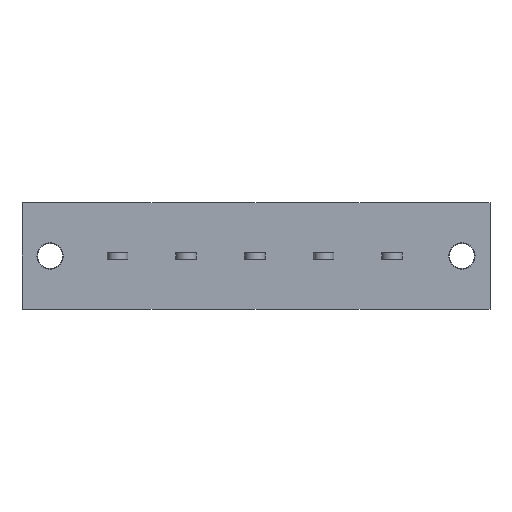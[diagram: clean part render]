
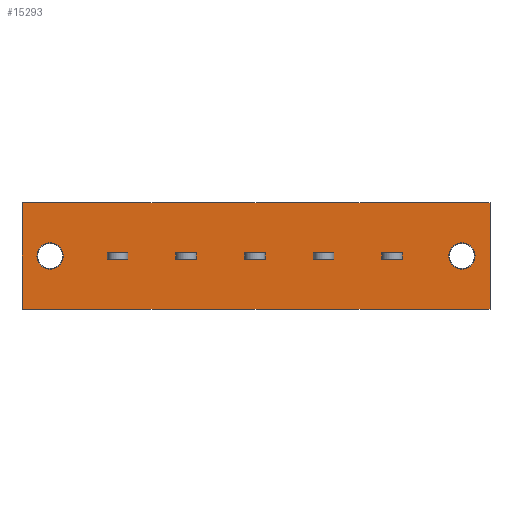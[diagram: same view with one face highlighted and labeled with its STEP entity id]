
A CAD part, front view. The second image highlights one B-rep face of the part: STEP entity #15293.
In plain terms, the highlighted planar face has unit normal (0, -1, 0).
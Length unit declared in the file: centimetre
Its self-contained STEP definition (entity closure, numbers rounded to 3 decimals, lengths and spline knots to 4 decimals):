
#954=VECTOR('',#16495,1.);
#1445=VECTOR('',#17294,1.);
#1614=VECTOR('',#17737,1.);
#1618=VECTOR('',#17742,1.);
#1633=VECTOR('',#17779,1.);
#1641=VECTOR('',#17791,1.);
#1759=VECTOR('',#18105,1.);
#1763=VECTOR('',#18110,1.);
#1778=VECTOR('',#18147,1.);
#1786=VECTOR('',#18159,1.);
#1904=VECTOR('',#18473,1.);
#1908=VECTOR('',#18478,1.);
#1923=VECTOR('',#18515,1.);
#1931=VECTOR('',#18527,1.);
#2049=VECTOR('',#18841,1.);
#2053=VECTOR('',#18846,1.);
#2068=VECTOR('',#18883,1.);
#2076=VECTOR('',#18895,1.);
#2143=VECTOR('',#19020,1.);
#2144=VECTOR('',#19021,1.);
#2145=VECTOR('',#19022,1.);
#2146=VECTOR('',#19023,1.);
#2147=VECTOR('',#19024,1.);
#2148=VECTOR('',#19025,1.);
#2616=LINE('',#20684,#954);
#3107=LINE('',#22523,#1445);
#3276=LINE('',#23078,#1614);
#3280=LINE('',#23087,#1618);
#3295=LINE('',#23131,#1633);
#3303=LINE('',#23147,#1641);
#3421=LINE('',#23548,#1759);
#3425=LINE('',#23557,#1763);
#3440=LINE('',#23601,#1778);
#3448=LINE('',#23617,#1786);
#3566=LINE('',#24018,#1904);
#3570=LINE('',#24027,#1908);
#3585=LINE('',#24071,#1923);
#3593=LINE('',#24087,#1931);
#3711=LINE('',#24488,#2049);
#3715=LINE('',#24497,#2053);
#3730=LINE('',#24541,#2068);
#3738=LINE('',#24557,#2076);
#3805=LINE('',#24719,#2143);
#3806=LINE('',#24722,#2144);
#3807=LINE('',#24724,#2145);
#3808=LINE('',#24726,#2146);
#3809=LINE('',#24727,#2147);
#3810=LINE('',#24728,#2148);
#4314=VERTEX_POINT('',#20685);
#4315=VERTEX_POINT('',#20686);
#4326=VERTEX_POINT('',#20710);
#4761=VERTEX_POINT('',#22524);
#4762=VERTEX_POINT('',#22525);
#4773=VERTEX_POINT('',#22549);
#4944=VERTEX_POINT('',#23079);
#4945=VERTEX_POINT('',#23080);
#4948=VERTEX_POINT('',#23088);
#4964=VERTEX_POINT('',#23132);
#5090=VERTEX_POINT('',#23549);
#5091=VERTEX_POINT('',#23550);
#5094=VERTEX_POINT('',#23558);
#5110=VERTEX_POINT('',#23602);
#5236=VERTEX_POINT('',#24019);
#5237=VERTEX_POINT('',#24020);
#5240=VERTEX_POINT('',#24028);
#5256=VERTEX_POINT('',#24072);
#5382=VERTEX_POINT('',#24489);
#5383=VERTEX_POINT('',#24490);
#5386=VERTEX_POINT('',#24498);
#5402=VERTEX_POINT('',#24542);
#5463=VERTEX_POINT('',#24720);
#5464=VERTEX_POINT('',#24721);
#5465=VERTEX_POINT('',#24723);
#5466=VERTEX_POINT('',#24725);
#5494=CIRCLE('',#24991,0.21);
#5537=CIRCLE('',#25228,0.21);
#6316=EDGE_CURVE('',#4314,#4315,#2616,.T.);
#6328=EDGE_CURVE('',#4326,#4326,#5494,.T.);
#6971=EDGE_CURVE('',#4761,#4762,#3107,.T.);
#6983=EDGE_CURVE('',#4773,#4773,#5537,.T.);
#7232=EDGE_CURVE('',#4944,#4945,#3276,.T.);
#7236=EDGE_CURVE('',#4948,#4944,#3280,.T.);
#7258=EDGE_CURVE('',#4964,#4948,#3295,.T.);
#7267=EDGE_CURVE('',#4945,#4964,#3303,.T.);
#7450=EDGE_CURVE('',#5090,#5091,#3421,.T.);
#7454=EDGE_CURVE('',#5094,#5090,#3425,.T.);
#7476=EDGE_CURVE('',#5110,#5094,#3440,.T.);
#7485=EDGE_CURVE('',#5091,#5110,#3448,.T.);
#7668=EDGE_CURVE('',#5236,#5237,#3566,.T.);
#7672=EDGE_CURVE('',#5240,#5236,#3570,.T.);
#7694=EDGE_CURVE('',#5256,#5240,#3585,.T.);
#7703=EDGE_CURVE('',#5237,#5256,#3593,.T.);
#7886=EDGE_CURVE('',#5382,#5383,#3711,.T.);
#7890=EDGE_CURVE('',#5386,#5382,#3715,.T.);
#7912=EDGE_CURVE('',#5402,#5386,#3730,.T.);
#7921=EDGE_CURVE('',#5383,#5402,#3738,.T.);
#8004=EDGE_CURVE('',#5463,#5464,#3805,.T.);
#8005=EDGE_CURVE('',#5465,#5463,#3806,.T.);
#8006=EDGE_CURVE('',#5466,#5465,#3807,.T.);
#8007=EDGE_CURVE('',#5464,#5466,#3808,.T.);
#8008=EDGE_CURVE('',#4762,#4314,#3809,.T.);
#8009=EDGE_CURVE('',#4315,#4761,#3810,.T.);
#12377=ORIENTED_EDGE('',*,*,#6328,.T.);
#12378=ORIENTED_EDGE('',*,*,#6983,.T.);
#12379=ORIENTED_EDGE('',*,*,#8004,.F.);
#12380=ORIENTED_EDGE('',*,*,#8005,.F.);
#12381=ORIENTED_EDGE('',*,*,#8006,.F.);
#12382=ORIENTED_EDGE('',*,*,#8007,.F.);
#12383=ORIENTED_EDGE('',*,*,#7236,.T.);
#12384=ORIENTED_EDGE('',*,*,#7232,.T.);
#12385=ORIENTED_EDGE('',*,*,#7267,.T.);
#12386=ORIENTED_EDGE('',*,*,#7258,.T.);
#12387=ORIENTED_EDGE('',*,*,#7454,.T.);
#12388=ORIENTED_EDGE('',*,*,#7450,.T.);
#12389=ORIENTED_EDGE('',*,*,#7485,.T.);
#12390=ORIENTED_EDGE('',*,*,#7476,.T.);
#12391=ORIENTED_EDGE('',*,*,#7672,.T.);
#12392=ORIENTED_EDGE('',*,*,#7668,.T.);
#12393=ORIENTED_EDGE('',*,*,#7703,.T.);
#12394=ORIENTED_EDGE('',*,*,#7694,.T.);
#12395=ORIENTED_EDGE('',*,*,#7890,.T.);
#12396=ORIENTED_EDGE('',*,*,#7886,.T.);
#12397=ORIENTED_EDGE('',*,*,#7921,.T.);
#12398=ORIENTED_EDGE('',*,*,#7912,.T.);
#12399=ORIENTED_EDGE('',*,*,#8008,.T.);
#12400=ORIENTED_EDGE('',*,*,#6316,.T.);
#12401=ORIENTED_EDGE('',*,*,#8009,.T.);
#12402=ORIENTED_EDGE('',*,*,#6971,.T.);
#13510=EDGE_LOOP('',(#12377));
#13511=EDGE_LOOP('',(#12378));
#13512=EDGE_LOOP('',(#12379,#12380,#12381,#12382));
#13513=EDGE_LOOP('',(#12383,#12384,#12385,#12386));
#13514=EDGE_LOOP('',(#12387,#12388,#12389,#12390));
#13515=EDGE_LOOP('',(#12391,#12392,#12393,#12394));
#13516=EDGE_LOOP('',(#12395,#12396,#12397,#12398));
#13517=EDGE_LOOP('',(#12399,#12400,#12401,#12402));
#14446=FACE_BOUND('',#13510,.T.);
#14447=FACE_BOUND('',#13511,.T.);
#14448=FACE_BOUND('',#13512,.T.);
#14449=FACE_BOUND('',#13513,.T.);
#14450=FACE_BOUND('',#13514,.T.);
#14451=FACE_BOUND('',#13515,.T.);
#14452=FACE_BOUND('',#13516,.T.);
#14453=FACE_BOUND('',#13517,.T.);
#15293=ADVANCED_FACE('',(#14446,#14447,#14448,#14449,#14450,#14451,#14452,
#14453),#15875,.T.);
#15875=PLANE('',#25858);
#16495=DIRECTION('',(0.,0.,1.));
#16513=DIRECTION('',(0.,1.,0.));
#16514=DIRECTION('',(0.21,0.,0.));
#17294=DIRECTION('',(0.,0.,-1.));
#17312=DIRECTION('',(0.,1.,0.));
#17313=DIRECTION('',(-0.21,0.,0.));
#17737=DIRECTION('',(0.,0.,1.));
#17742=DIRECTION('',(-1.,0.,0.));
#17779=DIRECTION('',(0.,0.,-1.));
#17791=DIRECTION('',(1.,0.,0.));
#18105=DIRECTION('',(0.,0.,1.));
#18110=DIRECTION('',(-1.,0.,0.));
#18147=DIRECTION('',(0.,0.,-1.));
#18159=DIRECTION('',(1.,0.,0.));
#18473=DIRECTION('',(0.,0.,1.));
#18478=DIRECTION('',(-1.,0.,0.));
#18515=DIRECTION('',(0.,0.,-1.));
#18527=DIRECTION('',(1.,0.,0.));
#18841=DIRECTION('',(0.,0.,1.));
#18846=DIRECTION('',(-1.,0.,0.));
#18883=DIRECTION('',(0.,0.,-1.));
#18895=DIRECTION('',(1.,0.,0.));
#19019=DIRECTION('',(0.,-1.,0.));
#19020=DIRECTION('',(1.,0.,0.));
#19021=DIRECTION('',(0.,0.,-1.));
#19022=DIRECTION('',(-1.,0.,0.));
#19023=DIRECTION('',(0.,0.,1.));
#19024=DIRECTION('',(1.,0.,0.));
#19025=DIRECTION('',(-1.,0.,0.));
#20684=CARTESIAN_POINT('',(5.5,0.,0.85));
#20685=CARTESIAN_POINT('',(5.5,0.,-0.85));
#20686=CARTESIAN_POINT('',(5.5,0.,0.85));
#20709=CARTESIAN_POINT('',(5.05,0.,0.));
#20710=CARTESIAN_POINT('',(4.84,0.,0.));
#22523=CARTESIAN_POINT('',(-2.,0.,-0.85));
#22524=CARTESIAN_POINT('',(-2.,0.,0.85));
#22525=CARTESIAN_POINT('',(-2.,0.,-0.85));
#22548=CARTESIAN_POINT('',(-1.55,0.,0.));
#22549=CARTESIAN_POINT('',(-1.34,0.,0.));
#23078=CARTESIAN_POINT('',(3.765,0.,0.));
#23079=CARTESIAN_POINT('',(3.765,0.,-0.05));
#23080=CARTESIAN_POINT('',(3.765,0.,0.05));
#23087=CARTESIAN_POINT('',(1.965,0.,-0.05));
#23088=CARTESIAN_POINT('',(4.095,0.,-0.05));
#23131=CARTESIAN_POINT('',(4.095,0.,0.));
#23132=CARTESIAN_POINT('',(4.095,0.,0.05));
#23147=CARTESIAN_POINT('',(1.965,0.,0.05));
#23548=CARTESIAN_POINT('',(2.665,0.,0.));
#23549=CARTESIAN_POINT('',(2.665,0.,-0.05));
#23550=CARTESIAN_POINT('',(2.665,0.,0.05));
#23557=CARTESIAN_POINT('',(1.415,0.,-0.05));
#23558=CARTESIAN_POINT('',(2.995,0.,-0.05));
#23601=CARTESIAN_POINT('',(2.995,0.,0.));
#23602=CARTESIAN_POINT('',(2.995,0.,0.05));
#23617=CARTESIAN_POINT('',(1.415,0.,0.05));
#24018=CARTESIAN_POINT('',(1.565,0.,0.));
#24019=CARTESIAN_POINT('',(1.565,0.,-0.05));
#24020=CARTESIAN_POINT('',(1.565,0.,0.05));
#24027=CARTESIAN_POINT('',(0.865,0.,-0.05));
#24028=CARTESIAN_POINT('',(1.895,0.,-0.05));
#24071=CARTESIAN_POINT('',(1.895,0.,0.));
#24072=CARTESIAN_POINT('',(1.895,0.,0.05));
#24087=CARTESIAN_POINT('',(0.865,0.,0.05));
#24488=CARTESIAN_POINT('',(0.465,0.,0.));
#24489=CARTESIAN_POINT('',(0.465,0.,-0.05));
#24490=CARTESIAN_POINT('',(0.465,0.,0.05));
#24497=CARTESIAN_POINT('',(0.315,0.,-0.05));
#24498=CARTESIAN_POINT('',(0.795,0.,-0.05));
#24541=CARTESIAN_POINT('',(0.795,0.,0.));
#24542=CARTESIAN_POINT('',(0.795,0.,0.05));
#24557=CARTESIAN_POINT('',(0.315,0.,0.05));
#24718=CARTESIAN_POINT('',(0.,0.,0.));
#24719=CARTESIAN_POINT('',(-0.685,0.,-0.05));
#24720=CARTESIAN_POINT('',(-0.635,0.,-0.05));
#24721=CARTESIAN_POINT('',(-0.305,0.,-0.05));
#24722=CARTESIAN_POINT('',(-0.635,0.,0.));
#24723=CARTESIAN_POINT('',(-0.635,0.,0.05));
#24724=CARTESIAN_POINT('',(-0.685,0.,0.05));
#24725=CARTESIAN_POINT('',(-0.305,0.,0.05));
#24726=CARTESIAN_POINT('',(-0.305,0.,0.));
#24727=CARTESIAN_POINT('',(0.,0.,-0.85));
#24728=CARTESIAN_POINT('',(-1.1,0.,0.85));
#24991=AXIS2_PLACEMENT_3D('',#20709,#16513,#16514);
#25228=AXIS2_PLACEMENT_3D('',#22548,#17312,#17313);
#25858=AXIS2_PLACEMENT_3D('',#24718,#19019,$);
